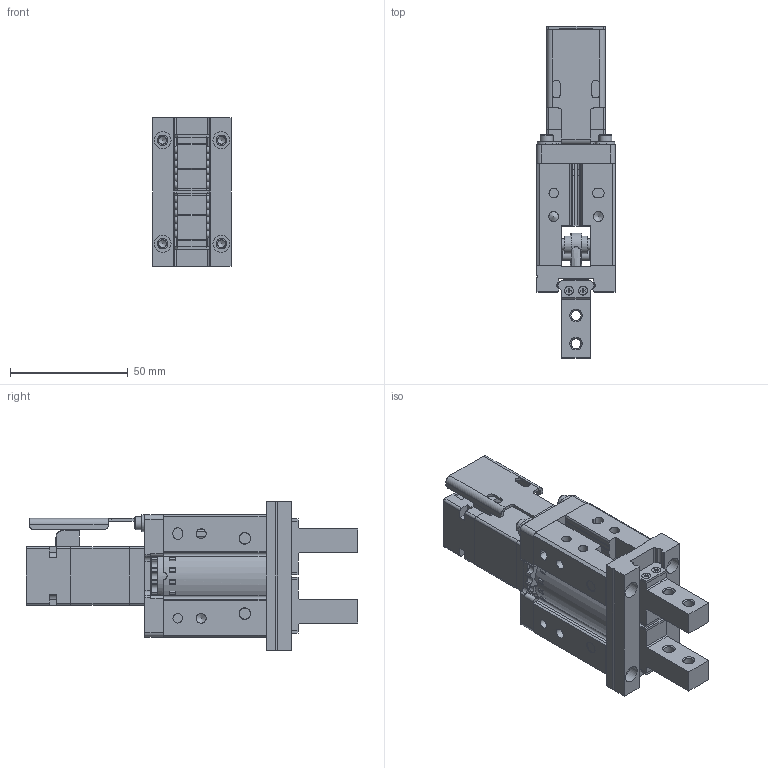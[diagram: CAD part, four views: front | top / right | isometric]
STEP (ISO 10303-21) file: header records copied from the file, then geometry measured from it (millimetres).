
FILE_DESCRIPTION(/* description */ (''),/* implementation_level */ '2;1');
FILE_NAME(/* name */ 'X:\1-1_一部&線馬部_主管專用\一部_ 劉于綾\---【專案處理】\2016 大本型錄校稿-新增+修改2D\型錄修改2D\Servo Cylinder\----2021待修改\CHZ20+25 外型圖變更 (2021.4.7向緯哥提供)\CHZ25-S14-V3-0310---2021.04.07向緯哥提供修改版_TOP_Shrinkwrap_1.stp',/* time_stamp */ '2021-05-18T16:51:20+08:00',/* author */ ('T10033'),/* organization */ (''),/* preprocessor_version */ 'ST-DEVELOPER v18.1',/* originating_system */ 'Autodesk Inventor 2020',/* authorisation */ '');
FILE_SCHEMA (('CONFIG_CONTROL_DESIGN'));
Length unit declared in the file: millimetre
Products named in the file (1): CHZ25-S14-V3-0310---2021.04.07向緯哥提供修改版_
TOP_Shrinkwrap_1
Bounding box: 33.6 x 141.2 x 63 mm (x, y, z)
Surface area: 45737.6 mm2 (no closed solid volume)
Topology: 0 solids, 72 shells, 730 faces, 2483 edges, 1779 vertices
Faces by surface type: plane 392, cylinder 247, cone 65, sphere 26
Full cylindrical faces by diameter (mm): 3.8 x6, 4 x5, 4.2 x8, 4.301 x4, 5 x9, 5.5 x4, 6 x4, 6.5 x2, 7.2 x4, 7.5 x4, 21 x1
Entity records: 28257 total; most frequent: CARTESIAN_POINT 5386, DIRECTION 4921, ORIENTED_EDGE 4197, EDGE_CURVE 2414, AXIS2_PLACEMENT_3D 1837, VERTEX_POINT 1779, LINE 1247, VECTOR 1247
